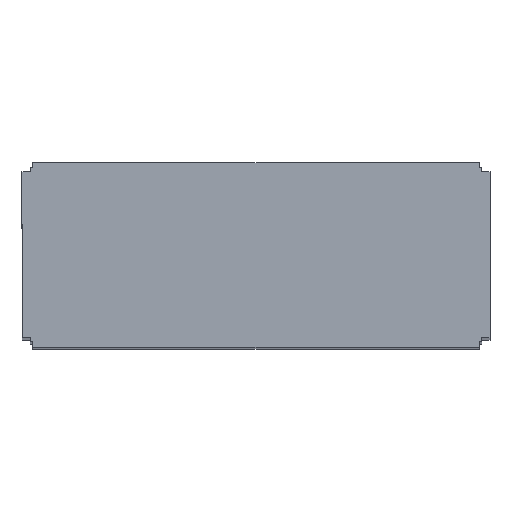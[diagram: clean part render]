
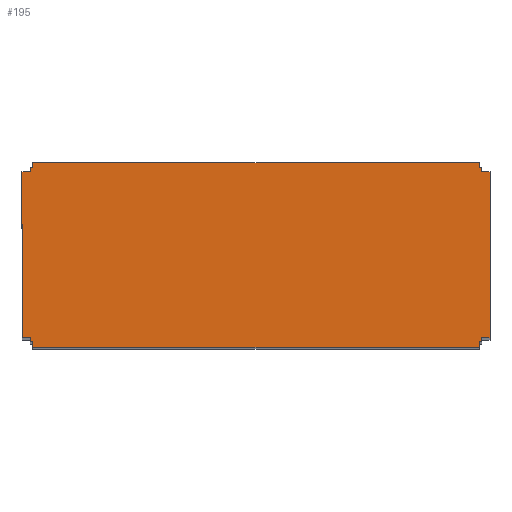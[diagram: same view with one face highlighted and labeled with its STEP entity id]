
A CAD part, top view. The second image highlights one B-rep face of the part: STEP entity #195.
In plain terms, the highlighted planar face has unit normal (0, 0, 1).
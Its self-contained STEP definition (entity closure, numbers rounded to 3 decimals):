
#6 = CARTESIAN_POINT ( 'NONE',  ( -165.1, 64.25, 500. ) ) ;
#7 = ORIENTED_EDGE ( 'NONE', *, *, #266, .T. ) ;
#15 = CARTESIAN_POINT ( 'NONE',  ( -165.1, 68.25, 500. ) ) ;
#18 = DIRECTION ( 'NONE',  ( 0., -1., 0. ) ) ;
#20 = LINE ( 'NONE', #1169, #750 ) ;
#22 = VECTOR ( 'NONE', #18, 1000. ) ;
#32 = DIRECTION ( 'NONE',  ( 1., 0., 0. ) ) ;
#42 = CARTESIAN_POINT ( 'NONE',  ( 173., 61.25, 500. ) ) ;
#55 = ORIENTED_EDGE ( 'NONE', *, *, #859, .T. ) ;
#56 = ORIENTED_EDGE ( 'NONE', *, *, #907, .T. ) ;
#57 = CARTESIAN_POINT ( 'NONE',  ( -165.1, -68.25, 500. ) ) ;
#58 = EDGE_CURVE ( 'NONE', #68, #65, #805, .T. ) ;
#63 = VERTEX_POINT ( 'NONE', #378 ) ;
#65 = VERTEX_POINT ( 'NONE', #880 ) ;
#68 = VERTEX_POINT ( 'NONE', #88 ) ;
#77 = CARTESIAN_POINT ( 'NONE',  ( -167., -64.25, 500. ) ) ;
#80 = LINE ( 'NONE', #199, #529 ) ;
#88 = CARTESIAN_POINT ( 'NONE',  ( 165.1, 64.25, 500. ) ) ;
#93 = LINE ( 'NONE', #831, #209 ) ;
#96 = ORIENTED_EDGE ( 'NONE', *, *, #58, .T. ) ;
#99 = DIRECTION ( 'NONE',  ( 0., 1., 0. ) ) ;
#106 = VECTOR ( 'NONE', #99, 1000. ) ;
#107 = VECTOR ( 'NONE', #282, 1000. ) ;
#114 = ORIENTED_EDGE ( 'NONE', *, *, #699, .T. ) ;
#130 = DIRECTION ( 'NONE',  ( 0., -1., 0. ) ) ;
#141 = EDGE_CURVE ( 'NONE', #1293, #63, #606, .T. ) ;
#157 = VECTOR ( 'NONE', #757, 1000. ) ;
#160 = VECTOR ( 'NONE', #996, 1000. ) ;
#164 = VERTEX_POINT ( 'NONE', #6 ) ;
#173 = EDGE_CURVE ( 'NONE', #369, #68, #763, .T. ) ;
#194 = VERTEX_POINT ( 'NONE', #407 ) ;
#195 = ADVANCED_FACE ( 'NONE', ( #902 ), #1221, .T. ) ;
#199 = CARTESIAN_POINT ( 'NONE',  ( -167., -61.25, 500. ) ) ;
#203 = AXIS2_PLACEMENT_3D ( 'NONE', #601, #301, #497 ) ;
#209 = VECTOR ( 'NONE', #250, 1000. ) ;
#215 = ORIENTED_EDGE ( 'NONE', *, *, #635, .T. ) ;
#220 = CARTESIAN_POINT ( 'NONE',  ( 167., 64.25, 500. ) ) ;
#223 = DIRECTION ( 'NONE',  ( 0., 1., 0. ) ) ;
#227 = CARTESIAN_POINT ( 'NONE',  ( -165.1, -68.25, 500. ) ) ;
#228 = VECTOR ( 'NONE', #1148, 1000. ) ;
#235 = EDGE_CURVE ( 'NONE', #755, #983, #905, .T. ) ;
#250 = DIRECTION ( 'NONE',  ( 0., -1., 0. ) ) ;
#255 = DIRECTION ( 'NONE',  ( 0., 1., 0. ) ) ;
#266 = EDGE_CURVE ( 'NONE', #63, #369, #1238, .T. ) ;
#273 = ORIENTED_EDGE ( 'NONE', *, *, #867, .T. ) ;
#276 = ORIENTED_EDGE ( 'NONE', *, *, #141, .T. ) ;
#282 = DIRECTION ( 'NONE',  ( 0., 1., 0. ) ) ;
#283 = VECTOR ( 'NONE', #130, 1000. ) ;
#285 = ORIENTED_EDGE ( 'NONE', *, *, #498, .T. ) ;
#301 = DIRECTION ( 'NONE',  ( 0., 0., 1. ) ) ;
#314 = VECTOR ( 'NONE', #917, 1000. ) ;
#318 = CARTESIAN_POINT ( 'NONE',  ( 167., -64.25, 500. ) ) ;
#339 = CARTESIAN_POINT ( 'NONE',  ( 165.1, -68.25, 500. ) ) ;
#354 = ORIENTED_EDGE ( 'NONE', *, *, #660, .T. ) ;
#355 = CARTESIAN_POINT ( 'NONE',  ( -167., 64.25, 500. ) ) ;
#358 = CARTESIAN_POINT ( 'NONE',  ( 165.1, -64.25, 500. ) ) ;
#369 = VERTEX_POINT ( 'NONE', #1128 ) ;
#378 = CARTESIAN_POINT ( 'NONE',  ( 167., 61.25, 500. ) ) ;
#407 = CARTESIAN_POINT ( 'NONE',  ( 167., -61.25, 500. ) ) ;
#408 = EDGE_CURVE ( 'NONE', #775, #505, #516, .T. ) ;
#459 = EDGE_CURVE ( 'NONE', #693, #782, #1266, .T. ) ;
#462 = ORIENTED_EDGE ( 'NONE', *, *, #784, .T. ) ;
#463 = CARTESIAN_POINT ( 'NONE',  ( 165.1, -64.25, 500. ) ) ;
#469 = ORIENTED_EDGE ( 'NONE', *, *, #235, .T. ) ;
#476 = ORIENTED_EDGE ( 'NONE', *, *, #645, .T. ) ;
#477 = CARTESIAN_POINT ( 'NONE',  ( 173., -61.25, 500. ) ) ;
#483 = VECTOR ( 'NONE', #977, 1000. ) ;
#497 = DIRECTION ( 'NONE',  ( 1., 0., 0. ) ) ;
#498 = EDGE_CURVE ( 'NONE', #1085, #164, #1013, .T. ) ;
#499 = VECTOR ( 'NONE', #1212, 1000. ) ;
#503 = CARTESIAN_POINT ( 'NONE',  ( 167., 61.25, 500. ) ) ;
#505 = VERTEX_POINT ( 'NONE', #57 ) ;
#514 = EDGE_CURVE ( 'NONE', #164, #875, #673, .T. ) ;
#516 = LINE ( 'NONE', #1134, #283 ) ;
#526 = CARTESIAN_POINT ( 'NONE',  ( -173., -61.25, 500. ) ) ;
#529 = VECTOR ( 'NONE', #1294, 1000. ) ;
#530 = CARTESIAN_POINT ( 'NONE',  ( 167., -64.25, 500. ) ) ;
#540 = CARTESIAN_POINT ( 'NONE',  ( -165.1, 64.25, 500. ) ) ;
#562 = VERTEX_POINT ( 'NONE', #339 ) ;
#568 = EDGE_CURVE ( 'NONE', #875, #693, #93, .T. ) ;
#573 = LINE ( 'NONE', #15, #160 ) ;
#593 = CARTESIAN_POINT ( 'NONE',  ( 173., -61.25, 500. ) ) ;
#601 = CARTESIAN_POINT ( 'NONE',  ( -165.1, 64.25, 500. ) ) ;
#606 = LINE ( 'NONE', #503, #1033 ) ;
#611 = CARTESIAN_POINT ( 'NONE',  ( 167., -64.25, 500. ) ) ;
#619 = CARTESIAN_POINT ( 'NONE',  ( -167., 61.25, 500. ) ) ;
#635 = EDGE_CURVE ( 'NONE', #1284, #755, #80, .T. ) ;
#645 = EDGE_CURVE ( 'NONE', #65, #1085, #573, .T. ) ;
#660 = EDGE_CURVE ( 'NONE', #505, #562, #925, .T. ) ;
#673 = LINE ( 'NONE', #355, #1122 ) ;
#674 = CARTESIAN_POINT ( 'NONE',  ( 165.1, 64.25, 500. ) ) ;
#679 = ORIENTED_EDGE ( 'NONE', *, *, #173, .T. ) ;
#688 = ORIENTED_EDGE ( 'NONE', *, *, #514, .T. ) ;
#693 = VERTEX_POINT ( 'NONE', #1218 ) ;
#699 = EDGE_CURVE ( 'NONE', #778, #752, #1120, .T. ) ;
#700 = VECTOR ( 'NONE', #1069, 1000. ) ;
#710 = CARTESIAN_POINT ( 'NONE',  ( 167., 64.25, 500. ) ) ;
#719 = LINE ( 'NONE', #318, #106 ) ;
#741 = DIRECTION ( 'NONE',  ( -1., 0., 0. ) ) ;
#750 = VECTOR ( 'NONE', #846, 1000. ) ;
#752 = VERTEX_POINT ( 'NONE', #530 ) ;
#755 = VERTEX_POINT ( 'NONE', #830 ) ;
#757 = DIRECTION ( 'NONE',  ( -1., 0., 0. ) ) ;
#760 = LINE ( 'NONE', #1030, #1133 ) ;
#763 = LINE ( 'NONE', #710, #499 ) ;
#766 = ORIENTED_EDGE ( 'NONE', *, *, #459, .T. ) ;
#775 = VERTEX_POINT ( 'NONE', #1164 ) ;
#778 = VERTEX_POINT ( 'NONE', #463 ) ;
#782 = VERTEX_POINT ( 'NONE', #1273 ) ;
#784 = EDGE_CURVE ( 'NONE', #562, #778, #1152, .T. ) ;
#805 = LINE ( 'NONE', #674, #107 ) ;
#817 = LINE ( 'NONE', #1191, #700 ) ;
#830 = CARTESIAN_POINT ( 'NONE',  ( -167., -61.25, 500. ) ) ;
#831 = CARTESIAN_POINT ( 'NONE',  ( -167., 64.25, 500. ) ) ;
#846 = DIRECTION ( 'NONE',  ( 1., 0., 0. ) ) ;
#859 = EDGE_CURVE ( 'NONE', #194, #1081, #20, .T. ) ;
#866 = VECTOR ( 'NONE', #255, 1000. ) ;
#867 = EDGE_CURVE ( 'NONE', #1081, #1293, #1014, .T. ) ;
#875 = VERTEX_POINT ( 'NONE', #876 ) ;
#876 = CARTESIAN_POINT ( 'NONE',  ( -167., 64.25, 500. ) ) ;
#880 = CARTESIAN_POINT ( 'NONE',  ( 165.1, 68.25, 500. ) ) ;
#902 = FACE_OUTER_BOUND ( 'NONE', #1143, .T. ) ;
#905 = LINE ( 'NONE', #999, #22 ) ;
#907 = EDGE_CURVE ( 'NONE', #782, #1284, #817, .T. ) ;
#909 = DIRECTION ( 'NONE',  ( -1., 0., 0. ) ) ;
#914 = ORIENTED_EDGE ( 'NONE', *, *, #568, .T. ) ;
#917 = DIRECTION ( 'NONE',  ( 1., 0., 0. ) ) ;
#925 = LINE ( 'NONE', #227, #314 ) ;
#939 = VECTOR ( 'NONE', #1004, 1000. ) ;
#977 = DIRECTION ( 'NONE',  ( 0., 1., 0. ) ) ;
#983 = VERTEX_POINT ( 'NONE', #77 ) ;
#996 = DIRECTION ( 'NONE',  ( -1., 0., 0. ) ) ;
#999 = CARTESIAN_POINT ( 'NONE',  ( -167., -64.25, 500. ) ) ;
#1004 = DIRECTION ( 'NONE',  ( 1., 0., 0. ) ) ;
#1013 = LINE ( 'NONE', #540, #228 ) ;
#1014 = LINE ( 'NONE', #477, #483 ) ;
#1030 = CARTESIAN_POINT ( 'NONE',  ( -167., -64.25, 500. ) ) ;
#1033 = VECTOR ( 'NONE', #909, 1000. ) ;
#1051 = ORIENTED_EDGE ( 'NONE', *, *, #1287, .T. ) ;
#1069 = DIRECTION ( 'NONE',  ( 0., -1., 0. ) ) ;
#1081 = VERTEX_POINT ( 'NONE', #593 ) ;
#1085 = VERTEX_POINT ( 'NONE', #1210 ) ;
#1088 = EDGE_CURVE ( 'NONE', #752, #194, #719, .T. ) ;
#1108 = ORIENTED_EDGE ( 'NONE', *, *, #408, .T. ) ;
#1120 = LINE ( 'NONE', #611, #939 ) ;
#1122 = VECTOR ( 'NONE', #741, 1000. ) ;
#1128 = CARTESIAN_POINT ( 'NONE',  ( 167., 64.25, 500. ) ) ;
#1133 = VECTOR ( 'NONE', #32, 1000. ) ;
#1134 = CARTESIAN_POINT ( 'NONE',  ( -165.1, -64.25, 500. ) ) ;
#1143 = EDGE_LOOP ( 'NONE', ( #688, #914, #766, #56, #215, #469, #1051, #1108, #354, #462, #114, #1242, #55, #273, #276, #7, #679, #96, #476, #285 ) ) ;
#1148 = DIRECTION ( 'NONE',  ( 0., -1., 0. ) ) ;
#1152 = LINE ( 'NONE', #358, #866 ) ;
#1164 = CARTESIAN_POINT ( 'NONE',  ( -165.1, -64.25, 500. ) ) ;
#1169 = CARTESIAN_POINT ( 'NONE',  ( 167., -61.25, 500. ) ) ;
#1181 = VECTOR ( 'NONE', #223, 1000. ) ;
#1191 = CARTESIAN_POINT ( 'NONE',  ( -173., -61.25, 500. ) ) ;
#1210 = CARTESIAN_POINT ( 'NONE',  ( -165.1, 68.25, 500. ) ) ;
#1212 = DIRECTION ( 'NONE',  ( -1., 0., 0. ) ) ;
#1218 = CARTESIAN_POINT ( 'NONE',  ( -167., 61.25, 500. ) ) ;
#1221 = PLANE ( 'NONE',  #203 ) ;
#1238 = LINE ( 'NONE', #220, #1181 ) ;
#1242 = ORIENTED_EDGE ( 'NONE', *, *, #1088, .T. ) ;
#1266 = LINE ( 'NONE', #619, #157 ) ;
#1273 = CARTESIAN_POINT ( 'NONE',  ( -173., 61.25, 500. ) ) ;
#1284 = VERTEX_POINT ( 'NONE', #526 ) ;
#1287 = EDGE_CURVE ( 'NONE', #983, #775, #760, .T. ) ;
#1293 = VERTEX_POINT ( 'NONE', #42 ) ;
#1294 = DIRECTION ( 'NONE',  ( 1., 0., 0. ) ) ;
